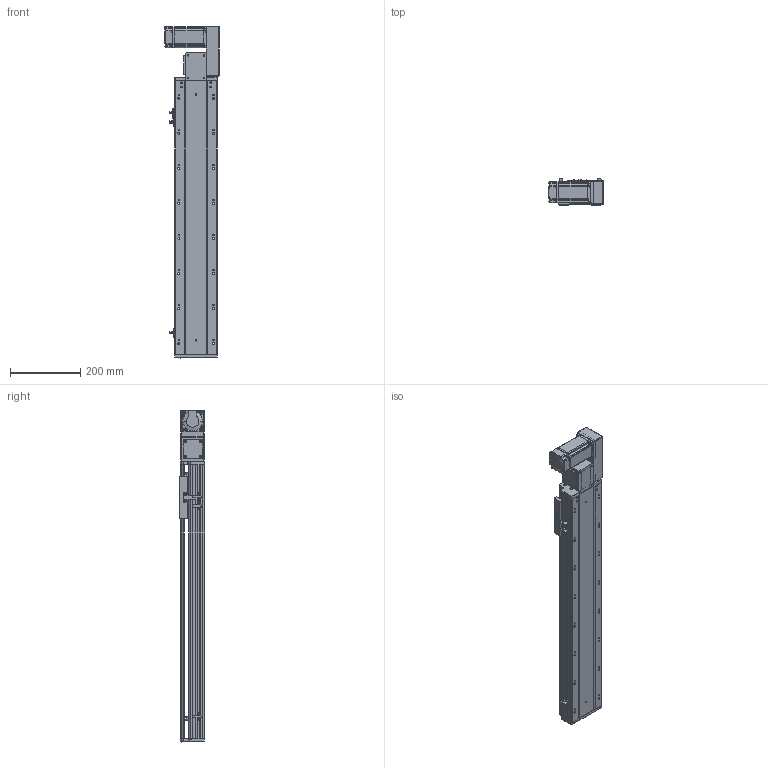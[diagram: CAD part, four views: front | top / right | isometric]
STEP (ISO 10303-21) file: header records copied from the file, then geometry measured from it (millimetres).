
FILE_DESCRIPTION (( 'STEP AP203' ), '1' );
FILE_NAME ('RY120-T-300-RK.SLDASM_550.step', '2021-03-01T03:52:50', ( '盈信电脑' ), ( '东莞市道滘镇水果街19号' ), 'SwSTEP 2.0', 'SolidWorks 2012', '' );
FILE_SCHEMA (( 'CONFIG_CONTROL_DESIGN' ));
Length unit declared in the file: millimetre
Products named in the file (17): RY120-T萇儂假蚾啣; RY120-T蹟翐M4; RY120-T萇儂欶; RY120-T翋肮祭謫裔啣; 15; RY120-T翋肮祭盓傅釱; 滅袉蝶18-10; RY120-T肮祭湍揤踡輸2; RY120-T肮祭湍揤踡輸1; RY120外置感应片(140共用）; 覜茼ん672; RY120綴裔啣; RY120肮祭湍臏賑輸; RY120-T-300-RK倰第菁釱_550; RY120-T-300-RK倰第奻裔啣_550; RY120-T-300-RK.SLDASM_550; RY120-T主同步轮轴承压盖
Assembly tree (22 placements, depth 2):
  RY120-T-300-RK.SLDASM_550
    RY120-T-300-RK倰第菁釱_550
    RY120-T-300-RK倰第奻裔啣_550
    RY120肮祭湍臏賑輸
    RY120綴裔啣
    覜茼ん672  x3
    RY120外置感应片(140共用）
    RY120-T肮祭湍揤踡輸1
    RY120-T肮祭湍揤踡輸2
    RY120-T翋肮祭盓傅釱
    滅袉蝶18-10  x2
    RY120-T翋肮祭謫裔啣
    15
    RY120-T萇儂假蚾啣
    RY120-T蹟翐M4  x4
    RY120-T萇儂欶
    RY120-T主同步轮轴承压盖
Bounding box: 155.5 x 73 x 947.5 mm (x, y, z)
Volume: 2627552.6 mm3; surface area: 961200.6 mm2
Topology: 23 solids, 23 shells, 2802 faces, 7664 edges, 4936 vertices
Faces by surface type: plane 1426, cylinder 1064, cone 223, bspline 89
Entity records: 89835 total; most frequent: CARTESIAN_POINT 23170, ORIENTED_EDGE 13808, DIRECTION 12958, EDGE_CURVE 6904, VERTEX_POINT 4523, AXIS2_PLACEMENT_3D 4327, VECTOR 4304, LINE 4304
